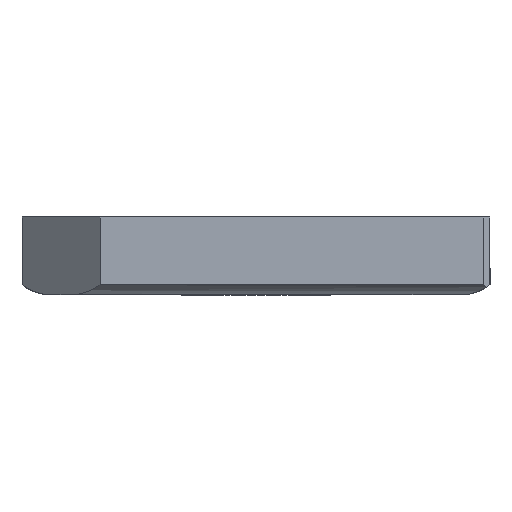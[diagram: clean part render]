
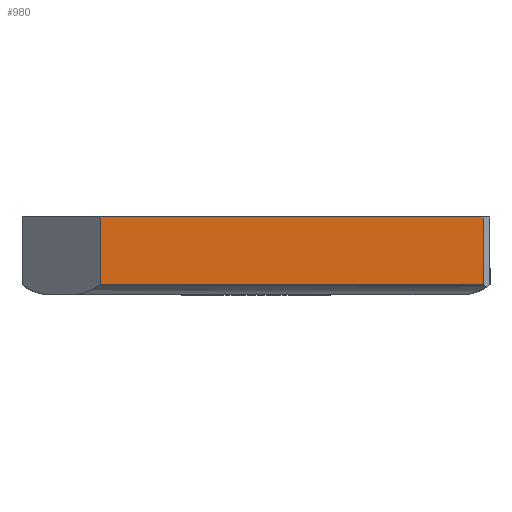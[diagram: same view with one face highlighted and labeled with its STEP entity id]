
A CAD part, left-side view. The second image highlights one B-rep face of the part: STEP entity #980.
In plain terms, the highlighted planar face has unit normal (-1, 0, 0).
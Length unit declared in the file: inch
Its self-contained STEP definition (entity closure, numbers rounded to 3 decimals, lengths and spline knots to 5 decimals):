
#37 = VERTEX_POINT ( 'NONE', #1425 ) ;
#91 = LINE ( 'NONE', #1250, #353 ) ;
#107 = ORIENTED_EDGE ( 'NONE', *, *, #1266, .T. ) ;
#119 = LINE ( 'NONE', #389, #687 ) ;
#221 = CARTESIAN_POINT ( 'NONE',  ( 0., 0., 0.118 ) ) ;
#223 = PLANE ( 'NONE',  #371 ) ;
#263 = VERTEX_POINT ( 'NONE', #528 ) ;
#318 = DIRECTION ( 'NONE',  ( 1., 0., 0. ) ) ;
#337 = CARTESIAN_POINT ( 'NONE',  ( 0., 0., 0.118 ) ) ;
#353 = VECTOR ( 'NONE', #1231, 39.37008 ) ;
#371 = AXIS2_PLACEMENT_3D ( 'NONE', #337, #318, #1102 ) ;
#389 = CARTESIAN_POINT ( 'NONE',  ( 0., 0., 0.01515 ) ) ;
#395 = CARTESIAN_POINT ( 'NONE',  ( 0., -0.118, 0.118 ) ) ;
#406 = FACE_OUTER_BOUND ( 'NONE', #936, .T. ) ;
#528 = CARTESIAN_POINT ( 'NONE',  ( 0., -0.118, 0.01515 ) ) ;
#564 = EDGE_CURVE ( 'NONE', #37, #893, #1082, .T. ) ;
#678 = CARTESIAN_POINT ( 'NONE',  ( 0., -0.698, 0.118 ) ) ;
#681 = VERTEX_POINT ( 'NONE', #1278 ) ;
#687 = VECTOR ( 'NONE', #701, 39.37008 ) ;
#701 = DIRECTION ( 'NONE',  ( 0., -1., 0. ) ) ;
#716 = VECTOR ( 'NONE', #1165, 39.37008 ) ;
#783 = EDGE_CURVE ( 'NONE', #263, #681, #119, .T. ) ;
#823 = VECTOR ( 'NONE', #994, 39.37008 ) ;
#893 = VERTEX_POINT ( 'NONE', #678 ) ;
#936 = EDGE_LOOP ( 'NONE', ( #1234, #107, #1067, #1183 ) ) ;
#980 = ADVANCED_FACE ( 'NONE', ( #406 ), #223, .F. ) ;
#994 = DIRECTION ( 'NONE',  ( 0., -1., 0. ) ) ;
#1067 = ORIENTED_EDGE ( 'NONE', *, *, #564, .F. ) ;
#1082 = LINE ( 'NONE', #221, #823 ) ;
#1102 = DIRECTION ( 'NONE',  ( 0., 1., 0. ) ) ;
#1164 = EDGE_CURVE ( 'NONE', #37, #263, #1310, .T. ) ;
#1165 = DIRECTION ( 'NONE',  ( 0., 0., -1. ) ) ;
#1183 = ORIENTED_EDGE ( 'NONE', *, *, #1164, .T. ) ;
#1231 = DIRECTION ( 'NONE',  ( 0., 0., 1. ) ) ;
#1234 = ORIENTED_EDGE ( 'NONE', *, *, #783, .T. ) ;
#1250 = CARTESIAN_POINT ( 'NONE',  ( 0., -0.698, 0.118 ) ) ;
#1266 = EDGE_CURVE ( 'NONE', #681, #893, #91, .T. ) ;
#1278 = CARTESIAN_POINT ( 'NONE',  ( 0., -0.698, 0.01515 ) ) ;
#1310 = LINE ( 'NONE', #395, #716 ) ;
#1425 = CARTESIAN_POINT ( 'NONE',  ( 0., -0.118, 0.118 ) ) ;
